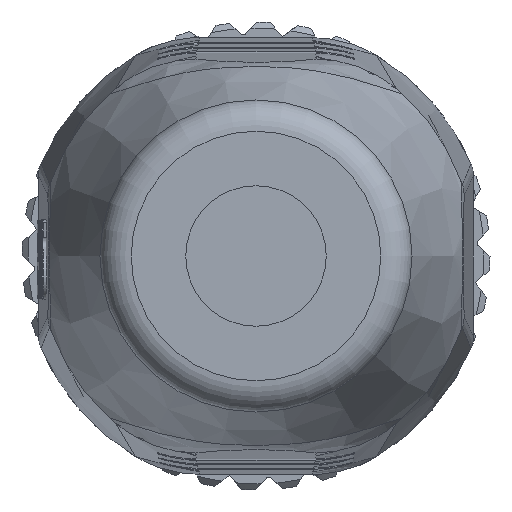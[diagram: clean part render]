
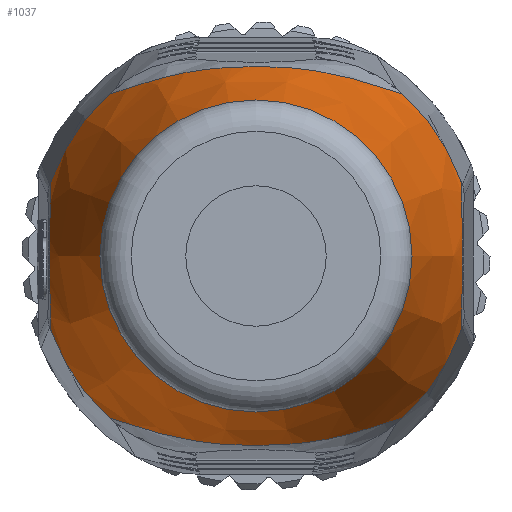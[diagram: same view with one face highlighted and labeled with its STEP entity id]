
A CAD part, front view. The second image highlights one B-rep face of the part: STEP entity #1037.
In plain terms, the highlighted conical face has half-angle 15.945 degrees and reference radius 5 mm.
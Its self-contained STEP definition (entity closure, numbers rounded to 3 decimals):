
#168=CONICAL_SURFACE('',#9871,5.,15.945);
#322=FACE_BOUND('',#2267,.T.);
#323=FACE_BOUND('',#2268,.T.);
#520=B_SPLINE_CURVE_WITH_KNOTS('',3,(#14141,#14142,#14143,#14144,#14145,
#14146,#14147,#14148,#14149,#14150,#14151,#14152,#14153,#14154),
 .UNSPECIFIED.,.F.,.F.,(4,2,2,2,2,2,4),(0.,0.125,0.25,0.5,0.625,0.75,1.),
 .UNSPECIFIED.);
#521=B_SPLINE_CURVE_WITH_KNOTS('',3,(#14158,#14159,#14160,#14161,#14162,
#14163,#14164,#14165,#14166,#14167,#14168,#14169,#14170,#14171,#14172,#14173,
#14174,#14175,#14176,#14177,#14178,#14179),.UNSPECIFIED.,.F.,.F.,(4,2,2,
2,2,2,2,2,2,2,4),(0.,0.125,0.188,0.219,0.25,0.5,0.625,0.688,0.719,
0.75,1.),.UNSPECIFIED.);
#522=B_SPLINE_CURVE_WITH_KNOTS('',3,(#14183,#14184,#14185,#14186,#14187,
#14188,#14189,#14190,#14191,#14192,#14193,#14194,#14195,#14196),
 .UNSPECIFIED.,.F.,.F.,(4,2,2,2,2,2,4),(0.,0.125,0.25,0.5,0.625,0.75,1.),
 .UNSPECIFIED.);
#523=B_SPLINE_CURVE_WITH_KNOTS('',3,(#14200,#14201,#14202,#14203,#14204,
#14205,#14206,#14207,#14208,#14209,#14210,#14211,#14212,#14213,#14214,#14215,
#14216,#14217,#14218,#14219,#14220,#14221),.UNSPECIFIED.,.F.,.F.,(4,2,2,
2,2,2,2,2,2,2,4),(0.,0.125,0.188,0.219,0.25,0.5,0.625,0.688,0.719,
0.75,1.),.UNSPECIFIED.);
#1037=ADVANCED_FACE('',(#322,#323),#168,.T.);
#2267=EDGE_LOOP('',(#4329));
#2268=EDGE_LOOP('',(#4330,#4331,#4332,#4333,#4334,#4335,#4336,#4337));
#4329=ORIENTED_EDGE('',*,*,#8133,.F.);
#4330=ORIENTED_EDGE('',*,*,#8134,.T.);
#4331=ORIENTED_EDGE('',*,*,#8135,.T.);
#4332=ORIENTED_EDGE('',*,*,#8136,.T.);
#4333=ORIENTED_EDGE('',*,*,#8137,.T.);
#4334=ORIENTED_EDGE('',*,*,#8138,.T.);
#4335=ORIENTED_EDGE('',*,*,#8139,.T.);
#4336=ORIENTED_EDGE('',*,*,#8140,.T.);
#4337=ORIENTED_EDGE('',*,*,#8141,.T.);
#7151=VERTEX_POINT('',#14137);
#7152=VERTEX_POINT('',#14139);
#7153=VERTEX_POINT('',#14140);
#7154=VERTEX_POINT('',#14155);
#7155=VERTEX_POINT('',#14157);
#7156=VERTEX_POINT('',#14180);
#7157=VERTEX_POINT('',#14182);
#7158=VERTEX_POINT('',#14197);
#7159=VERTEX_POINT('',#14199);
#8133=EDGE_CURVE('',#7151,#7151,#9417,.T.);
#8134=EDGE_CURVE('',#7152,#7153,#9418,.T.);
#8135=EDGE_CURVE('',#7153,#7154,#520,.T.);
#8136=EDGE_CURVE('',#7154,#7155,#9419,.T.);
#8137=EDGE_CURVE('',#7155,#7156,#521,.T.);
#8138=EDGE_CURVE('',#7156,#7157,#9420,.T.);
#8139=EDGE_CURVE('',#7157,#7158,#522,.T.);
#8140=EDGE_CURVE('',#7158,#7159,#9421,.T.);
#8141=EDGE_CURVE('',#7159,#7152,#523,.T.);
#9417=CIRCLE('',#9866,5.);
#9418=CIRCLE('',#9867,7.);
#9419=CIRCLE('',#9868,7.);
#9420=CIRCLE('',#9869,7.);
#9421=CIRCLE('',#9870,7.);
#9866=AXIS2_PLACEMENT_3D('',#14136,#10949,#10950);
#9867=AXIS2_PLACEMENT_3D('',#14138,#10951,#10952);
#9868=AXIS2_PLACEMENT_3D('',#14156,#10953,#10954);
#9869=AXIS2_PLACEMENT_3D('',#14181,#10955,#10956);
#9870=AXIS2_PLACEMENT_3D('',#14198,#10957,#10958);
#9871=AXIS2_PLACEMENT_3D('',#14222,#10959,#10960);
#10949=DIRECTION('',(0.,-1.,0.));
#10950=DIRECTION('',(1.,0.,0.));
#10951=DIRECTION('',(0.,-1.,0.));
#10952=DIRECTION('',(1.,0.,0.));
#10953=DIRECTION('',(0.,-1.,0.));
#10954=DIRECTION('',(1.,0.,0.));
#10955=DIRECTION('',(0.,-1.,0.));
#10956=DIRECTION('',(1.,0.,0.));
#10957=DIRECTION('',(0.,-1.,0.));
#10958=DIRECTION('',(1.,0.,0.));
#10959=DIRECTION('',(0.,1.,0.));
#10960=DIRECTION('',(1.,0.,0.));
#14136=CARTESIAN_POINT('',(0.,-18.1,0.));
#14137=CARTESIAN_POINT('',(5.,-18.1,0.));
#14138=CARTESIAN_POINT('',(0.,-11.1,0.));
#14139=CARTESIAN_POINT('',(4.699,-11.1,-5.189));
#14140=CARTESIAN_POINT('',(6.576,-11.1,-2.399));
#14141=CARTESIAN_POINT('',(6.576,-11.1,-2.399));
#14142=CARTESIAN_POINT('',(6.581,-11.298,-2.221));
#14143=CARTESIAN_POINT('',(6.585,-11.475,-2.044));
#14144=CARTESIAN_POINT('',(6.594,-11.785,-1.689));
#14145=CARTESIAN_POINT('',(6.596,-11.889,-1.559));
#14146=CARTESIAN_POINT('',(6.609,-12.314,-0.887));
#14147=CARTESIAN_POINT('',(6.613,-12.455,-0.448));
#14148=CARTESIAN_POINT('',(6.613,-12.455,0.224));
#14149=CARTESIAN_POINT('',(6.612,-12.419,0.446));
#14150=CARTESIAN_POINT('',(6.607,-12.278,0.891));
#14151=CARTESIAN_POINT('',(6.604,-12.142,1.159));
#14152=CARTESIAN_POINT('',(6.594,-11.805,1.691));
#14153=CARTESIAN_POINT('',(6.586,-11.495,2.043));
#14154=CARTESIAN_POINT('',(6.576,-11.1,2.399));
#14155=CARTESIAN_POINT('',(6.576,-11.1,2.399));
#14156=CARTESIAN_POINT('',(0.,-11.1,0.));
#14157=CARTESIAN_POINT('',(4.699,-11.1,5.189));
#14158=CARTESIAN_POINT('',(4.699,-11.1,5.189));
#14159=CARTESIAN_POINT('',(4.429,-11.534,5.265));
#14160=CARTESIAN_POINT('',(4.129,-11.933,5.365));
#14161=CARTESIAN_POINT('',(3.626,-12.478,5.525));
#14162=CARTESIAN_POINT('',(3.449,-12.651,5.58));
#14163=CARTESIAN_POINT('',(3.169,-12.897,5.661));
#14164=CARTESIAN_POINT('',(3.073,-12.977,5.687));
#14165=CARTESIAN_POINT('',(2.877,-13.132,5.74));
#14166=CARTESIAN_POINT('',(2.802,-13.19,5.759));
#14167=CARTESIAN_POINT('',(1.642,-14.013,6.035));
#14168=CARTESIAN_POINT('',(0.759,-14.379,6.063));
#14169=CARTESIAN_POINT('',(-0.38,-14.379,6.063));
#14170=CARTESIAN_POINT('',(-0.788,-14.288,6.054));
#14171=CARTESIAN_POINT('',(-1.455,-14.013,5.998));
#14172=CARTESIAN_POINT('',(-1.686,-13.899,5.972));
#14173=CARTESIAN_POINT('',(-2.046,-13.693,5.917));
#14174=CARTESIAN_POINT('',(-2.168,-13.619,5.896));
#14175=CARTESIAN_POINT('',(-2.417,-13.458,5.848));
#14176=CARTESIAN_POINT('',(-2.57,-13.354,5.814));
#14177=CARTESIAN_POINT('',(-3.498,-12.695,5.593));
#14178=CARTESIAN_POINT('',(-4.16,-11.968,5.342));
#14179=CARTESIAN_POINT('',(-4.699,-11.1,5.189));
#14180=CARTESIAN_POINT('',(-4.699,-11.1,5.189));
#14181=CARTESIAN_POINT('',(0.,-11.1,0.));
#14182=CARTESIAN_POINT('',(-6.576,-11.1,2.399));
#14183=CARTESIAN_POINT('',(-6.576,-11.1,2.399));
#14184=CARTESIAN_POINT('',(-6.581,-11.298,2.221));
#14185=CARTESIAN_POINT('',(-6.585,-11.475,2.044));
#14186=CARTESIAN_POINT('',(-6.594,-11.785,1.689));
#14187=CARTESIAN_POINT('',(-6.596,-11.889,1.559));
#14188=CARTESIAN_POINT('',(-6.609,-12.314,0.887));
#14189=CARTESIAN_POINT('',(-6.613,-12.455,0.448));
#14190=CARTESIAN_POINT('',(-6.613,-12.455,-0.224));
#14191=CARTESIAN_POINT('',(-6.612,-12.419,-0.446));
#14192=CARTESIAN_POINT('',(-6.607,-12.278,-0.891));
#14193=CARTESIAN_POINT('',(-6.604,-12.142,-1.159));
#14194=CARTESIAN_POINT('',(-6.594,-11.805,-1.691));
#14195=CARTESIAN_POINT('',(-6.586,-11.495,-2.043));
#14196=CARTESIAN_POINT('',(-6.576,-11.1,-2.399));
#14197=CARTESIAN_POINT('',(-6.576,-11.1,-2.399));
#14198=CARTESIAN_POINT('',(0.,-11.1,0.));
#14199=CARTESIAN_POINT('',(-4.699,-11.1,-5.189));
#14200=CARTESIAN_POINT('',(-4.699,-11.1,-5.189));
#14201=CARTESIAN_POINT('',(-4.429,-11.534,-5.265));
#14202=CARTESIAN_POINT('',(-4.129,-11.933,-5.365));
#14203=CARTESIAN_POINT('',(-3.626,-12.478,-5.525));
#14204=CARTESIAN_POINT('',(-3.449,-12.651,-5.58));
#14205=CARTESIAN_POINT('',(-3.169,-12.897,-5.661));
#14206=CARTESIAN_POINT('',(-3.073,-12.977,-5.687));
#14207=CARTESIAN_POINT('',(-2.877,-13.132,-5.74));
#14208=CARTESIAN_POINT('',(-2.802,-13.19,-5.759));
#14209=CARTESIAN_POINT('',(-1.642,-14.013,-6.035));
#14210=CARTESIAN_POINT('',(-0.759,-14.379,-6.063));
#14211=CARTESIAN_POINT('',(0.38,-14.379,-6.063));
#14212=CARTESIAN_POINT('',(0.788,-14.288,-6.054));
#14213=CARTESIAN_POINT('',(1.455,-14.013,-5.998));
#14214=CARTESIAN_POINT('',(1.686,-13.899,-5.972));
#14215=CARTESIAN_POINT('',(2.046,-13.693,-5.917));
#14216=CARTESIAN_POINT('',(2.168,-13.619,-5.896));
#14217=CARTESIAN_POINT('',(2.417,-13.458,-5.848));
#14218=CARTESIAN_POINT('',(2.57,-13.354,-5.814));
#14219=CARTESIAN_POINT('',(3.498,-12.695,-5.593));
#14220=CARTESIAN_POINT('',(4.16,-11.968,-5.342));
#14221=CARTESIAN_POINT('',(4.699,-11.1,-5.189));
#14222=CARTESIAN_POINT('',(0.,-18.1,0.));
